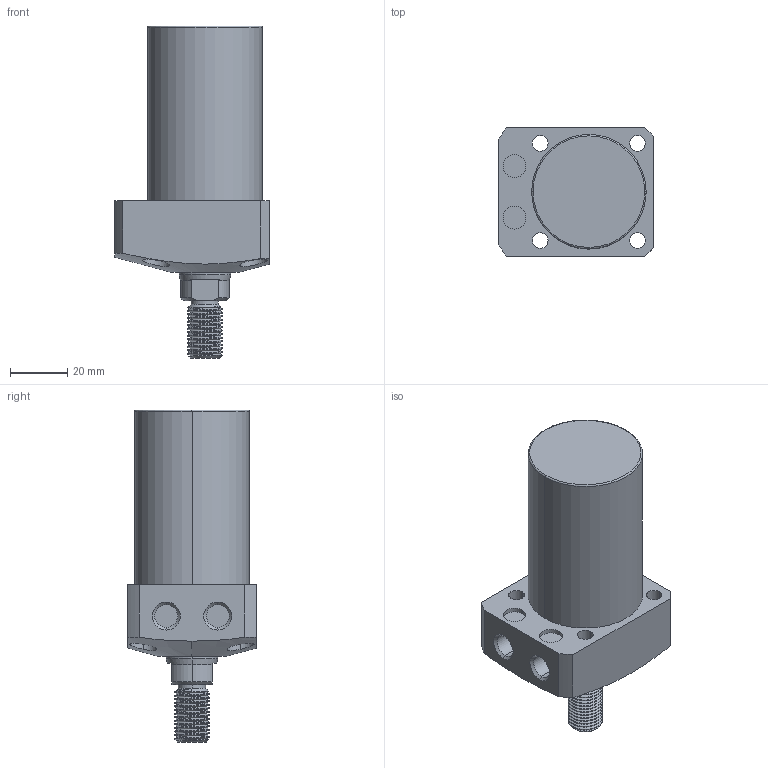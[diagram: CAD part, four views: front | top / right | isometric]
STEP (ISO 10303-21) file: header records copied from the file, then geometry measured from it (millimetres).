
FILE_DESCRIPTION (( 'STEP AP203' ), '1' );
FILE_NAME ('CLL-040CT-050.STEP', '2020-01-08T09:02:25', ( '' ), ( '' ), 'SwSTEP 2.0', 'SolidWorks 2015', '' );
FILE_SCHEMA (( 'CONFIG_CONTROL_DESIGN' ));
Length unit declared in the file: millimetre
Products named in the file (1): CLL-040CT-050
Bounding box: 54 x 45 x 116 mm (x, y, z)
Volume: 131028.5 mm3; surface area: 20473.2 mm2
Topology: 1 solids, 1 shells, 106 faces, 267 edges, 174 vertices
Faces by surface type: cylinder 63, plane 23, cone 16, torus 2, bspline 2
Entity records: 5216 total; most frequent: CARTESIAN_POINT 2734, ORIENTED_EDGE 534, DIRECTION 472, EDGE_CURVE 267, AXIS2_PLACEMENT_3D 189, VERTEX_POINT 174, EDGE_LOOP 125, ADVANCED_FACE 106
